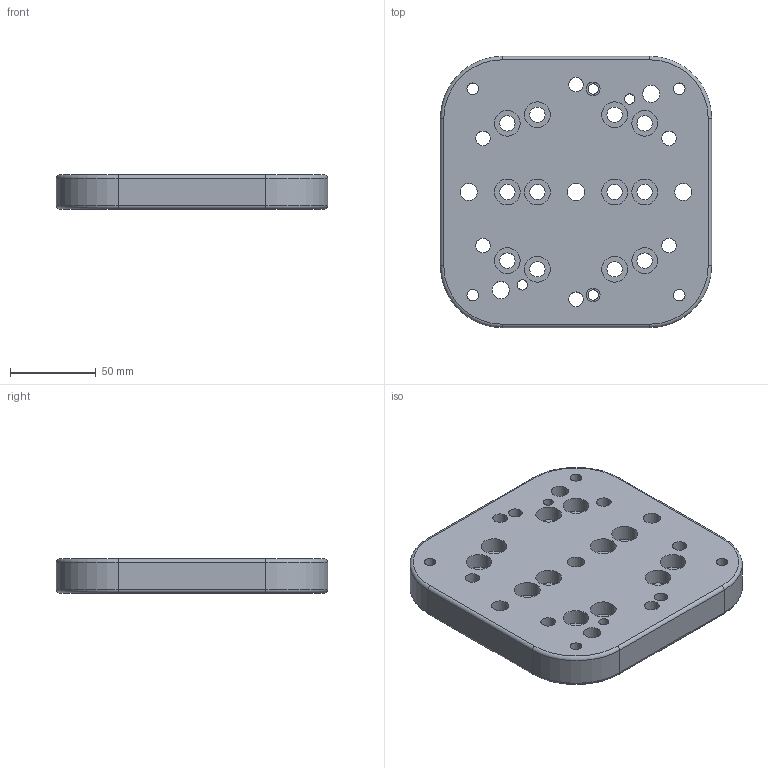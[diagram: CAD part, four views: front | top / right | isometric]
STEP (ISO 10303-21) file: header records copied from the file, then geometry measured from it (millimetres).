
FILE_DESCRIPTION(/* description */ (''),/* implementation_level */ '2;1');
FILE_NAME(/* name */ 'T:\CAD\Standard\Daten\3D-Datenbank\Webseite 2020\SHW\SHW160\G-UF158-20 UR10-Baseflansch.stp',/* time_stamp */ '2020-10-28T07:50:31+01:00',/* author */ ('vbednarz'),/* organization */ (''),/* preprocessor_version */ 'ST-DEVELOPER v17',/* originating_system */ 'Autodesk Inventor 2018',/* authorisation */ '');
FILE_SCHEMA (('AUTOMOTIVE_DESIGN { 1 0 10303 214 3 1 1 }'));
Length unit declared in the file: millimetre
Products named in the file (1): G-UF158-20 UR10-Baseflansch
Bounding box: 158 x 158 x 20 mm (x, y, z)
Volume: 428257.4 mm3; surface area: 73141.6 mm2
Topology: 1 solids, 1 shells, 85 faces, 232 edges, 163 vertices
Faces by surface type: cylinder 57, plane 20, torus 8
Full cylindrical faces by diameter (mm): 6 x4, 6.75 x4, 8 x2, 8.5 x6, 9 x12, 10 x5, 15 x12
Entity records: 2992 total; most frequent: DIRECTION 567, CARTESIAN_POINT 481, ORIENTED_EDGE 464, AXIS2_PLACEMENT_3D 249, EDGE_CURVE 232, CIRCLE 163, VERTEX_POINT 163, EDGE_LOOP 161
